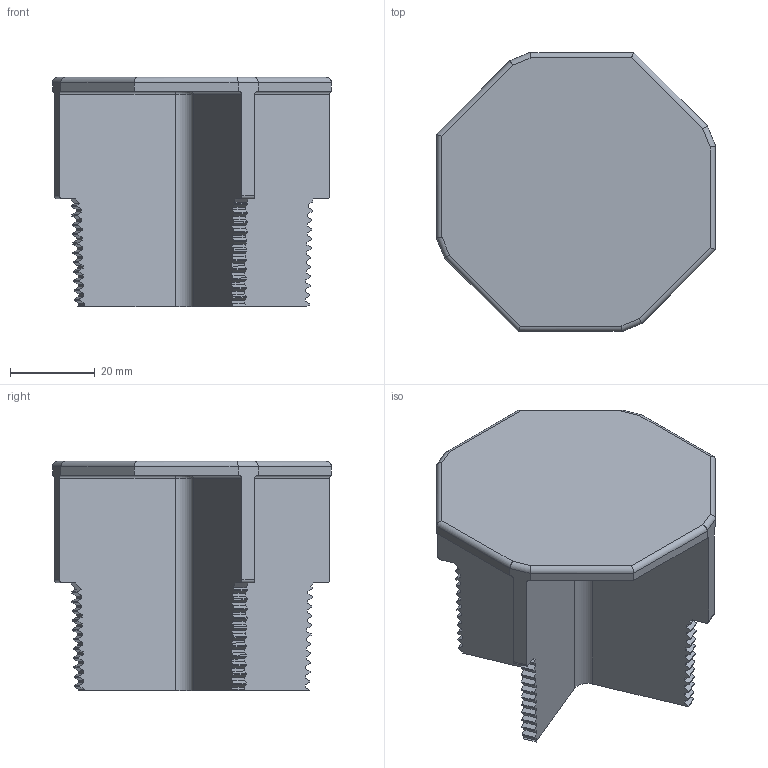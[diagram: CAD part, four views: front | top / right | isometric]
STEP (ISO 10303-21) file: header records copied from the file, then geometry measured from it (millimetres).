
FILE_DESCRIPTION(/* description */ ('Alibre Inc.'),/* implementation_level */ '2;1');
FILE_NAME(/* name */ 'export0',/* time_stamp */ '2017-10-21T13:44:13-04:00',/* author */ (''),/* organization */ (''),/* preprocessor_version */ 'ST-DEVELOPER v14',/* originating_system */ 'Alibre',/* authorisation */ '');
FILE_SCHEMA (('CONFIG_CONTROL_DESIGN'));
Length unit declared in the file: centimetre
Products named in the file (1): ID_2
Bounding box: 65.79 x 65.79 x 54.1 mm (x, y, z)
Volume: 32951 mm3; surface area: 20565.4 mm2
Topology: 1 solids, 1 shells, 252 faces, 727 edges, 478 vertices
Faces by surface type: bspline 137, cone 51, plane 31, cylinder 29, torus 4
Full cylindrical faces by diameter (mm): 3.81 x1
Entity records: 534251 total; most frequent: CARTESIAN_POINT 529156, ORIENTED_EDGE 1452, EDGE_CURVE 726, VERTEX_POINT 478, DIRECTION 445, B_SPLINE_CURVE_WITH_KNOTS 330, EDGE_LOOP 254, FACE_BOUND 254
